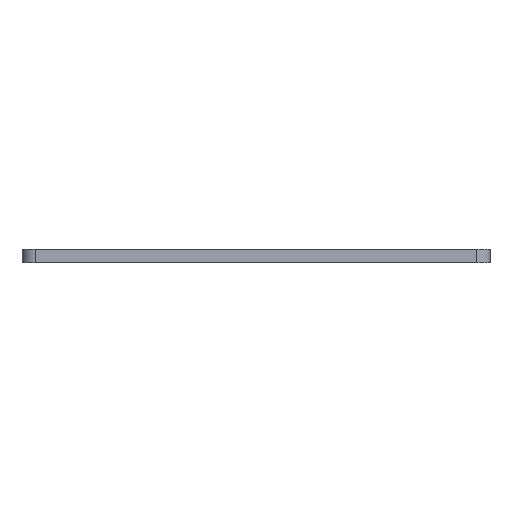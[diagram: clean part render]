
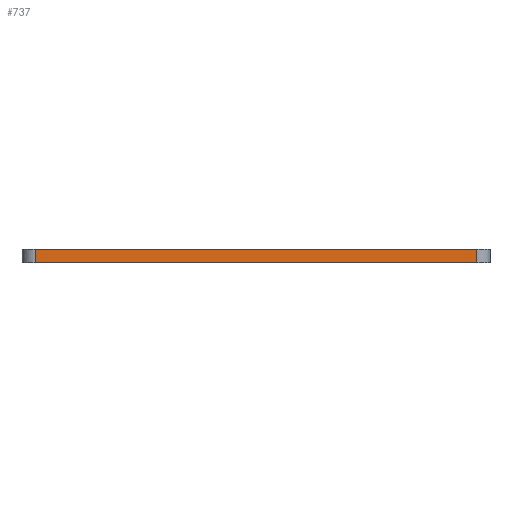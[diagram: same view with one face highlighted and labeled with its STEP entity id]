
A CAD part, left-side view. The second image highlights one B-rep face of the part: STEP entity #737.
In plain terms, the highlighted planar face has unit normal (-1, 0, 0).
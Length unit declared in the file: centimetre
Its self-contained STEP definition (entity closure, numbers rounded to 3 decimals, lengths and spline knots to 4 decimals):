
#11 = DIRECTION ( 'NONE',  ( 0., -1., 0. ) ) ;
#39 = EDGE_CURVE ( 'NONE', #211, #431, #333, .T. ) ;
#68 = DIRECTION ( 'NONE',  ( 0., 0., -1. ) ) ;
#91 = CARTESIAN_POINT ( 'NONE',  ( 0., 6.9, 0.2 ) ) ;
#187 = LINE ( 'NONE', #448, #524 ) ;
#188 = EDGE_LOOP ( 'NONE', ( #433, #636, #631, #438 ) ) ;
#205 = LINE ( 'NONE', #469, #330 ) ;
#211 = VERTEX_POINT ( 'NONE', #324 ) ;
#219 = DIRECTION ( 'NONE',  ( 1., 0., 0. ) ) ;
#238 = VECTOR ( 'NONE', #11, 100. ) ;
#285 = FACE_OUTER_BOUND ( 'NONE', #188, .T. ) ;
#324 = CARTESIAN_POINT ( 'NONE',  ( 0., 6.9, 0. ) ) ;
#325 = CARTESIAN_POINT ( 'NONE',  ( 0., 0.2, 0. ) ) ;
#330 = VECTOR ( 'NONE', #736, 100. ) ;
#333 = LINE ( 'NONE', #602, #238 ) ;
#382 = VECTOR ( 'NONE', #68, 100. ) ;
#388 = LINE ( 'NONE', #662, #382 ) ;
#395 = CARTESIAN_POINT ( 'NONE',  ( 0., 0.2, 0.2 ) ) ;
#397 = EDGE_CURVE ( 'NONE', #573, #495, #187, .T. ) ;
#430 = EDGE_CURVE ( 'NONE', #495, #431, #388, .T. ) ;
#431 = VERTEX_POINT ( 'NONE', #325 ) ;
#433 = ORIENTED_EDGE ( 'NONE', *, *, #39, .T. ) ;
#438 = ORIENTED_EDGE ( 'NONE', *, *, #836, .T. ) ;
#448 = CARTESIAN_POINT ( 'NONE',  ( 0., 0.2, 0.2 ) ) ;
#469 = CARTESIAN_POINT ( 'NONE',  ( 0., 6.9, 0.2 ) ) ;
#486 = DIRECTION ( 'NONE',  ( 0., 0., -1. ) ) ;
#495 = VERTEX_POINT ( 'NONE', #395 ) ;
#524 = VECTOR ( 'NONE', #717, 100. ) ;
#555 = PLANE ( 'NONE',  #784 ) ;
#573 = VERTEX_POINT ( 'NONE', #91 ) ;
#602 = CARTESIAN_POINT ( 'NONE',  ( 0., 0.2, 0. ) ) ;
#631 = ORIENTED_EDGE ( 'NONE', *, *, #397, .F. ) ;
#636 = ORIENTED_EDGE ( 'NONE', *, *, #430, .F. ) ;
#662 = CARTESIAN_POINT ( 'NONE',  ( 0., 0.2, 0.2 ) ) ;
#717 = DIRECTION ( 'NONE',  ( 0., -1., 0. ) ) ;
#736 = DIRECTION ( 'NONE',  ( 0., 0., -1. ) ) ;
#737 = ADVANCED_FACE ( 'NONE', ( #285 ), #555, .F. ) ;
#784 = AXIS2_PLACEMENT_3D ( 'NONE', #816, #219, #486 ) ;
#816 = CARTESIAN_POINT ( 'NONE',  ( 0., 0.2, 0.2 ) ) ;
#836 = EDGE_CURVE ( 'NONE', #573, #211, #205, .T. ) ;
